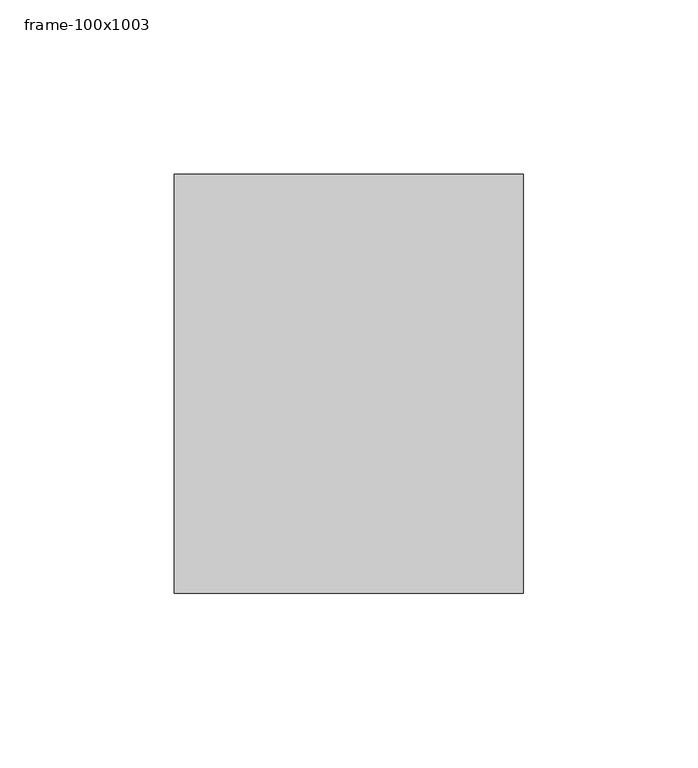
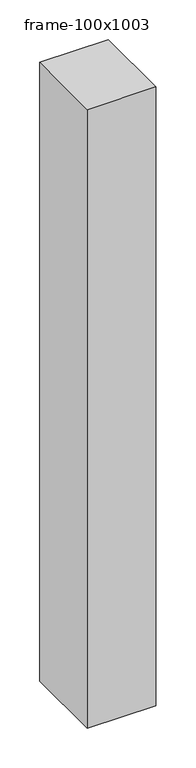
"""IFC4 building model written with IfcOpenShell, lengths in millimetres: member geometry, 長方形マリオン : frame-100x1003."""

from ifc_helpers import new_model, si_unit, frame, origin, place, context, project, spatial, polyline, outline, extrude, source, transform, mapped, element, save


def frame_100x1003_02b6ec4a(model_context):
    return source(origin(), model_context, "Body", "SweptSolid", [
        extrude(outline(polyline([(0.0, 60.0), (0.0, -60.0), (-100.0, -60.0), (-100.0, 60.0), (0.0, 60.0)])), frame((0.0, 0.0, -951.9800041), z_axis=(0.0, 0.0, 1.0), x_axis=(1.0, 0.0, 0.0)), (0.0, 0.0, 1.0), 951.9800041),
    ])


if __name__ == "__main__":
    model = new_model("IFC4")
    model_context = context("Model", 3, world=origin())
    ifc_project = project(units=[si_unit("LENGTHUNIT", "METRE", prefix="MILLI")], contexts=[model_context])
    site = spatial("IfcSite", under=ifc_project)
    building = spatial("IfcBuilding", under=site)
    placement = place(None, origin())
    frame_100x1003_shape = frame_100x1003_02b6ec4a(model_context)
    element("IfcMember", 1, ObjectType="長方形マリオン : frame-100x1003", at=placement, inside=building, context=model_context, shape_type="MappedRepresentation", body=[
        mapped(frame_100x1003_shape, transform((0.0, 0.0, 0.0), x_axis=(1.0, 0.0, 0.0), y_axis=(0.0, 1.0, 0.0), z_axis=(0.0, 0.0, 1.0))),
    ])
    save(model, "model.ifc")
